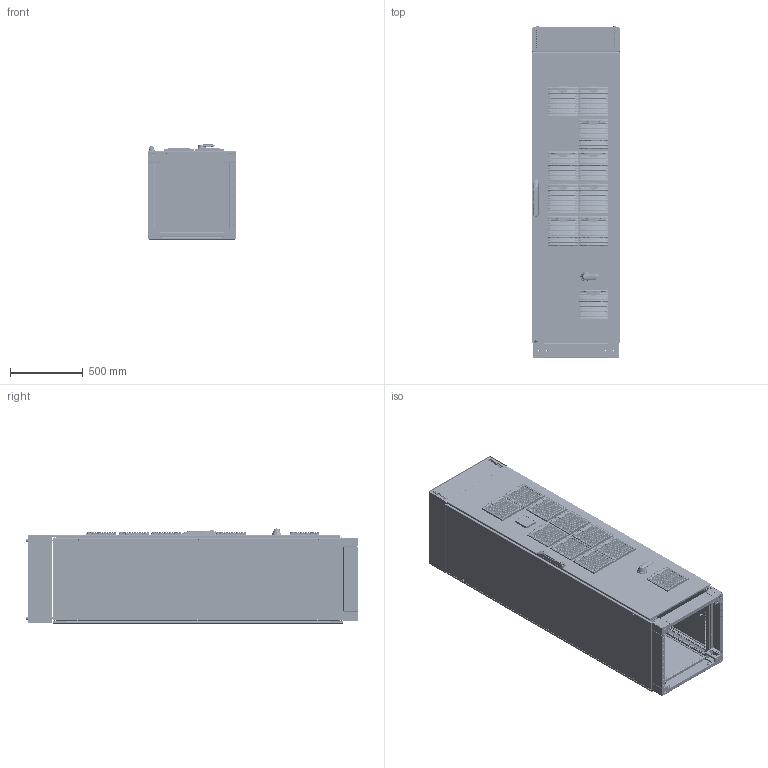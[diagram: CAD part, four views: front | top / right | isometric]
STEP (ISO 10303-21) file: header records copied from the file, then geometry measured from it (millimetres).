
FILE_DESCRIPTION(/* description */ (''),/* implementation_level */ '2;1');
FILE_NAME(/* name */ 'C:\Users\Erika.Jenzer\OneDrive - Schaffner EMV AG\CR_COs\CO20009634_CR10009263_AHF\Cabinet 3D\Customer STEP-File\252884\CUSTOMER FN3545-XXXXXXLXXXX.stp',/* time_stamp */ '2023-08-18T15:03:22+02:00',/* author */ ('erika.jenzer'),/* organization */ (''),/* preprocessor_version */ 'ST-DEVELOPER v18.1',/* originating_system */ 'Autodesk Inventor 2020',/* authorisation */ '');
FILE_SCHEMA (('AUTOMOTIVE_DESIGN { 1 0 10303 214 3 1 1 }'));
Products named in the file (1): CUSTOMER FN3545-XXXXXXLXXXX
Bounding box: 606.67 x 2280.5 x 653.22 mm (x, y, z)
Volume: 26818889.2 mm3; surface area: 16971025.8 mm2
Topology: 19 solids, 20 shells, 22275 faces, 65812 edges, 43449 vertices
Faces by surface type: plane 12201, cylinder 6114, bspline 1599, torus 1271, cone 746, sphere 344
Full cylindrical faces by diameter (mm): 1 x9, 2.103 x1, 2.5 x29, 2.724 x1, 2.9 x5, 3 x4, 3.2 x8, 3.4 x1, 3.5 x8, 3.98 x2, 4 x76, 4.1 x2, 4.2 x4, 4.3 x13, 4.5 x1347, 4.975 x5, 5 x18, 5.2 x1, 5.3 x42, 5.6 x12, 5.75 x12, 5.8 x6, 5.97 x11, 6 x4, 6.2 x2, 6.3 x60, 6.5 x22, 7 x12, 7.1 x8, 7.5 x3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
Entity records: 961038 total; most frequent: CARTESIAN_POINT 353727, ORIENTED_EDGE 130955, DIRECTION 120382, EDGE_CURVE 65487, VERTEX_POINT 43449, LINE 40290, VECTOR 40290, AXIS2_PLACEMENT_3D 40046
